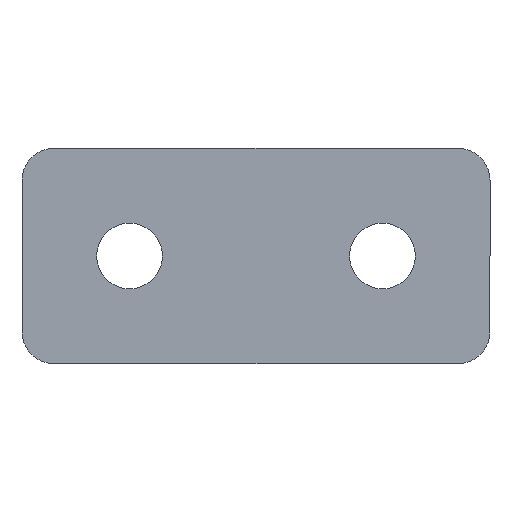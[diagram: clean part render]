
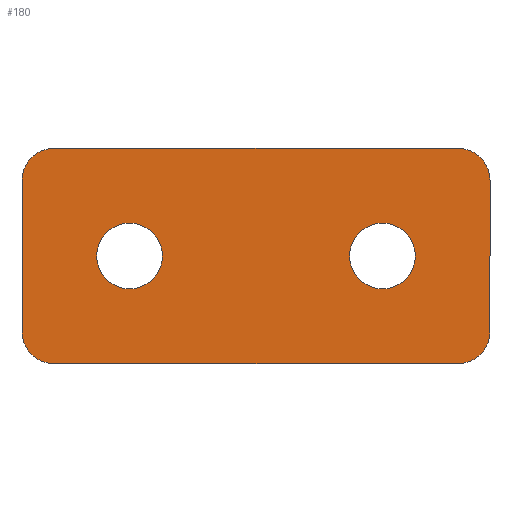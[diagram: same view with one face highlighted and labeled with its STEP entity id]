
A CAD part, front view. The second image highlights one B-rep face of the part: STEP entity #180.
In plain terms, the highlighted planar face has unit normal (0, -1, 0).
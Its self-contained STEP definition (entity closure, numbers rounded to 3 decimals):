
#1 = DIRECTION ( 'NONE',  ( 0., 0., -1. ) ) ;
#4 = VERTEX_POINT ( 'NONE', #225 ) ;
#10 = DIRECTION ( 'NONE',  ( 0., 1., 0. ) ) ;
#14 = ORIENTED_EDGE ( 'NONE', *, *, #291, .T. ) ;
#17 = VECTOR ( 'NONE', #371, 1000. ) ;
#24 = DIRECTION ( 'NONE',  ( 0., 1., 0. ) ) ;
#26 = ORIENTED_EDGE ( 'NONE', *, *, #245, .T. ) ;
#33 = LINE ( 'NONE', #167, #129 ) ;
#34 = ORIENTED_EDGE ( 'NONE', *, *, #224, .F. ) ;
#35 = CARTESIAN_POINT ( 'NONE',  ( 26., 0., 8.5 ) ) ;
#40 = EDGE_CURVE ( 'NONE', #98, #400, #443, .T. ) ;
#46 = CIRCLE ( 'NONE', #199, 2.6 ) ;
#47 = ORIENTED_EDGE ( 'NONE', *, *, #230, .T. ) ;
#50 = VERTEX_POINT ( 'NONE', #438 ) ;
#52 = CIRCLE ( 'NONE', #320, 2.6 ) ;
#61 = CARTESIAN_POINT ( 'NONE',  ( 26., 0., -6. ) ) ;
#62 = CARTESIAN_POINT ( 'NONE',  ( 20., 0., 0. ) ) ;
#67 = ORIENTED_EDGE ( 'NONE', *, *, #208, .T. ) ;
#68 = AXIS2_PLACEMENT_3D ( 'NONE', #133, #426, #503 ) ;
#70 = DIRECTION ( 'NONE',  ( 0., 0., -1. ) ) ;
#77 = DIRECTION ( 'NONE',  ( -1., 0., 0. ) ) ;
#86 = DIRECTION ( 'NONE',  ( 0., 0., 1. ) ) ;
#96 = CARTESIAN_POINT ( 'NONE',  ( 28.5, 0., 6. ) ) ;
#98 = VERTEX_POINT ( 'NONE', #114 ) ;
#110 = CARTESIAN_POINT ( 'NONE',  ( 28.5, 0., -8.5 ) ) ;
#114 = CARTESIAN_POINT ( 'NONE',  ( -8.5, 0., -6. ) ) ;
#119 = EDGE_LOOP ( 'NONE', ( #190, #14, #157, #131, #34, #185, #332, #302 ) ) ;
#125 = LINE ( 'NONE', #285, #17 ) ;
#129 = VECTOR ( 'NONE', #168, 1000. ) ;
#130 = VERTEX_POINT ( 'NONE', #35 ) ;
#131 = ORIENTED_EDGE ( 'NONE', *, *, #398, .T. ) ;
#133 = CARTESIAN_POINT ( 'NONE',  ( -6., 0., 6. ) ) ;
#139 = DIRECTION ( 'NONE',  ( 0., 0., -1. ) ) ;
#142 = VECTOR ( 'NONE', #77, 1000. ) ;
#157 = ORIENTED_EDGE ( 'NONE', *, *, #258, .F. ) ;
#165 = VERTEX_POINT ( 'NONE', #489 ) ;
#167 = CARTESIAN_POINT ( 'NONE',  ( 28.5, 0., 8.5 ) ) ;
#168 = DIRECTION ( 'NONE',  ( 0., 0., -1. ) ) ;
#170 = VECTOR ( 'NONE', #252, 1000. ) ;
#171 = VERTEX_POINT ( 'NONE', #237 ) ;
#179 = DIRECTION ( 'NONE',  ( 0., 0., 1. ) ) ;
#180 = ADVANCED_FACE ( 'NONE', ( #373, #381, #415 ), #486, .T. ) ;
#185 = ORIENTED_EDGE ( 'NONE', *, *, #40, .T. ) ;
#190 = ORIENTED_EDGE ( 'NONE', *, *, #331, .F. ) ;
#194 = DIRECTION ( 'NONE',  ( 0., -1., 0. ) ) ;
#199 = AXIS2_PLACEMENT_3D ( 'NONE', #251, #330, #494 ) ;
#208 = EDGE_CURVE ( 'NONE', #287, #165, #221, .T. ) ;
#211 = DIRECTION ( 'NONE',  ( 0., -1., 0. ) ) ;
#213 = CARTESIAN_POINT ( 'NONE',  ( -8.5, 0., 6. ) ) ;
#221 = CIRCLE ( 'NONE', #369, 2.6 ) ;
#224 = EDGE_CURVE ( 'NONE', #98, #437, #125, .T. ) ;
#225 = CARTESIAN_POINT ( 'NONE',  ( 26., 0., -8.5 ) ) ;
#230 = EDGE_CURVE ( 'NONE', #249, #269, #46, .T. ) ;
#237 = CARTESIAN_POINT ( 'NONE',  ( 28.5, 0., -6. ) ) ;
#245 = EDGE_CURVE ( 'NONE', #269, #249, #390, .T. ) ;
#249 = VERTEX_POINT ( 'NONE', #250 ) ;
#250 = CARTESIAN_POINT ( 'NONE',  ( 0., 0., -2.6 ) ) ;
#251 = CARTESIAN_POINT ( 'NONE',  ( 0., 0., 0. ) ) ;
#252 = DIRECTION ( 'NONE',  ( 1., 0., 0. ) ) ;
#258 = EDGE_CURVE ( 'NONE', #50, #130, #430, .T. ) ;
#269 = VERTEX_POINT ( 'NONE', #417 ) ;
#277 = CARTESIAN_POINT ( 'NONE',  ( 0., 0., 0. ) ) ;
#285 = CARTESIAN_POINT ( 'NONE',  ( -8.5, 0., -8.5 ) ) ;
#286 = EDGE_LOOP ( 'NONE', ( #396, #67 ) ) ;
#287 = VERTEX_POINT ( 'NONE', #378 ) ;
#289 = AXIS2_PLACEMENT_3D ( 'NONE', #61, #338, #139 ) ;
#290 = CARTESIAN_POINT ( 'NONE',  ( 8.5, 0., 8.5 ) ) ;
#291 = EDGE_CURVE ( 'NONE', #422, #130, #456, .T. ) ;
#293 = DIRECTION ( 'NONE',  ( 0., 0., 1. ) ) ;
#299 = CARTESIAN_POINT ( 'NONE',  ( -6., 0., -8.5 ) ) ;
#302 = ORIENTED_EDGE ( 'NONE', *, *, #441, .T. ) ;
#320 = AXIS2_PLACEMENT_3D ( 'NONE', #62, #24, #179 ) ;
#322 = AXIS2_PLACEMENT_3D ( 'NONE', #356, #194, #70 ) ;
#328 = CARTESIAN_POINT ( 'NONE',  ( 20., 0., 0. ) ) ;
#330 = DIRECTION ( 'NONE',  ( 0., 1., 0. ) ) ;
#331 = EDGE_CURVE ( 'NONE', #422, #171, #33, .T. ) ;
#332 = ORIENTED_EDGE ( 'NONE', *, *, #520, .F. ) ;
#338 = DIRECTION ( 'NONE',  ( 0., -1., 0. ) ) ;
#345 = CIRCLE ( 'NONE', #289, 2.5 ) ;
#356 = CARTESIAN_POINT ( 'NONE',  ( -6., 0., -6. ) ) ;
#359 = CIRCLE ( 'NONE', #68, 2.5 ) ;
#362 = LINE ( 'NONE', #110, #142 ) ;
#369 = AXIS2_PLACEMENT_3D ( 'NONE', #328, #449, #86 ) ;
#371 = DIRECTION ( 'NONE',  ( 0., 0., 1. ) ) ;
#373 = FACE_BOUND ( 'NONE', #286, .T. ) ;
#374 = CARTESIAN_POINT ( 'NONE',  ( 26., 0., 6. ) ) ;
#378 = CARTESIAN_POINT ( 'NONE',  ( 20., 0., -2.6 ) ) ;
#381 = FACE_BOUND ( 'NONE', #485, .T. ) ;
#388 = EDGE_CURVE ( 'NONE', #165, #287, #52, .T. ) ;
#390 = CIRCLE ( 'NONE', #423, 2.6 ) ;
#394 = AXIS2_PLACEMENT_3D ( 'NONE', #277, #404, #1 ) ;
#396 = ORIENTED_EDGE ( 'NONE', *, *, #388, .T. ) ;
#398 = EDGE_CURVE ( 'NONE', #50, #437, #359, .T. ) ;
#400 = VERTEX_POINT ( 'NONE', #299 ) ;
#404 = DIRECTION ( 'NONE',  ( 0., -1., 0. ) ) ;
#415 = FACE_OUTER_BOUND ( 'NONE', #119, .T. ) ;
#417 = CARTESIAN_POINT ( 'NONE',  ( 0., 0., 2.6 ) ) ;
#422 = VERTEX_POINT ( 'NONE', #96 ) ;
#423 = AXIS2_PLACEMENT_3D ( 'NONE', #496, #10, #293 ) ;
#426 = DIRECTION ( 'NONE',  ( 0., -1., 0. ) ) ;
#430 = LINE ( 'NONE', #290, #170 ) ;
#437 = VERTEX_POINT ( 'NONE', #213 ) ;
#438 = CARTESIAN_POINT ( 'NONE',  ( -6., 0., 8.5 ) ) ;
#441 = EDGE_CURVE ( 'NONE', #4, #171, #345, .T. ) ;
#443 = CIRCLE ( 'NONE', #322, 2.5 ) ;
#444 = AXIS2_PLACEMENT_3D ( 'NONE', #374, #211, #463 ) ;
#449 = DIRECTION ( 'NONE',  ( 0., 1., 0. ) ) ;
#456 = CIRCLE ( 'NONE', #444, 2.5 ) ;
#463 = DIRECTION ( 'NONE',  ( 0., 0., -1. ) ) ;
#485 = EDGE_LOOP ( 'NONE', ( #26, #47 ) ) ;
#486 = PLANE ( 'NONE',  #394 ) ;
#489 = CARTESIAN_POINT ( 'NONE',  ( 20., 0., 2.6 ) ) ;
#494 = DIRECTION ( 'NONE',  ( 0., 0., 1. ) ) ;
#496 = CARTESIAN_POINT ( 'NONE',  ( 0., 0., 0. ) ) ;
#503 = DIRECTION ( 'NONE',  ( 0., 0., -1. ) ) ;
#520 = EDGE_CURVE ( 'NONE', #4, #400, #362, .T. ) ;
